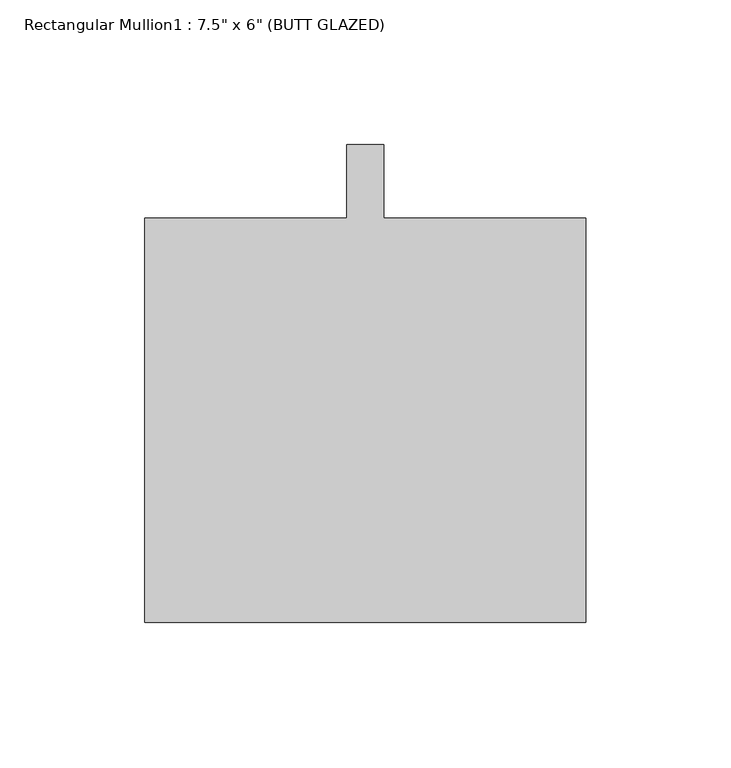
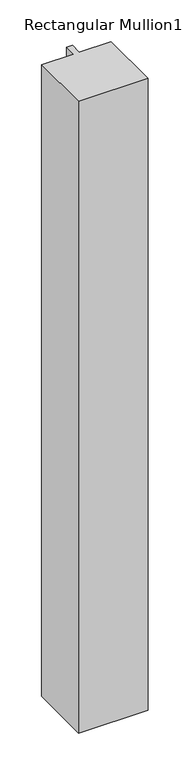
"""IFC4 building model written with IfcOpenShell, lengths in millimetres: member geometry."""

from ifc_helpers import new_model, si_unit, frame, origin, place, context, project, spatial, polyline, outline, extrude, source, transform, mapped, element, save


def member_e3fab94e(model_context):
    return source(origin(), model_context, "Body", "SweptSolid", [
        extrude(outline(polyline([(76.2, -165.1), (-76.2, -165.1), (-76.2, -25.4), (-6.35, -25.4), (-6.35, 0.0), (6.35, 0.0), (6.35, -25.4), (76.2, -25.4), (76.2, -165.1)])), frame((0.0, 0.0, -1460.5), z_axis=(0.0, 0.0, 1.0), x_axis=(1.0, 0.0, 0.0)), (0.0, 0.0, 1.0), 1460.5),
    ])


if __name__ == "__main__":
    model = new_model("IFC4")
    model_context = context("Model", 3, world=origin())
    ifc_project = project(units=[si_unit("LENGTHUNIT", "METRE", prefix="MILLI")], contexts=[model_context])
    site = spatial("IfcSite", under=ifc_project)
    building = spatial("IfcBuilding", under=site)
    placement = place(None, origin())
    member_shape = member_e3fab94e(model_context)
    element("IfcMember", 1, ObjectType="Rectangular Mullion1 : 7.5\" x 6\" (BUTT GLAZED)", at=placement, inside=building, context=model_context, shape_type="MappedRepresentation", body=[
        mapped(member_shape, transform((0.0, 0.0, 0.0), x_axis=(1.0, 0.0, 0.0), y_axis=(0.0, 1.0, 0.0), z_axis=(0.0, 0.0, 1.0))),
    ])
    save(model, "model.ifc")
